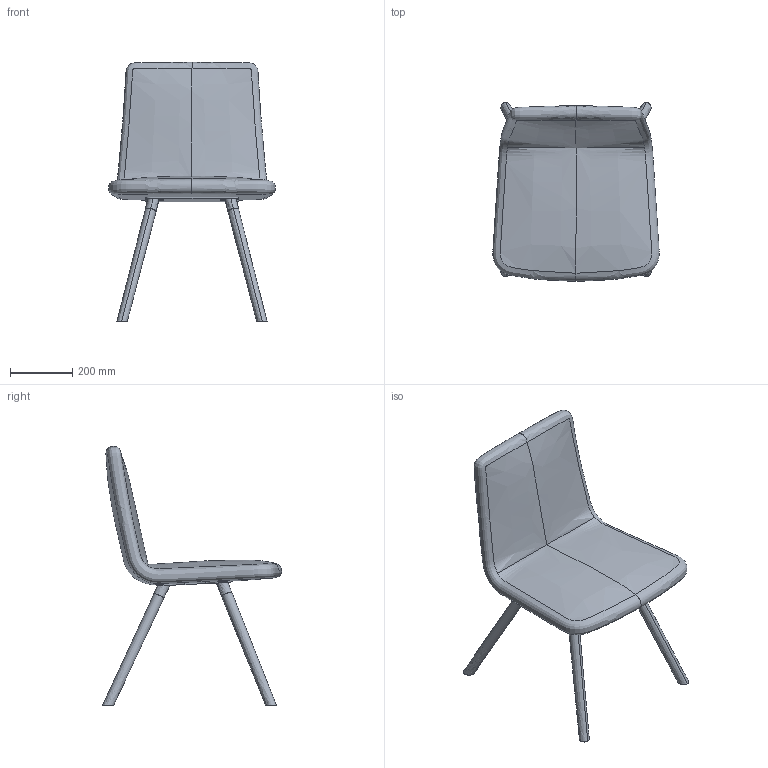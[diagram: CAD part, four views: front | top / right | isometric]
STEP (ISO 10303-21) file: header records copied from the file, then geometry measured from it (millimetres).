
FILE_DESCRIPTION(/* description */ (''),/* implementation_level */ '2;1');
FILE_NAME(/* name */ 'HAF93C~1',/* time_stamp */ '2016-09-30T16:48:27+02:00',/* author */ (''),/* organization */ (''),/* preprocessor_version */ 'ST-DEVELOPER v15',/* originating_system */ '',/* authorisation */ '');
FILE_SCHEMA (('CONFIG_CONTROL_DESIGN'));
Length unit declared in the file: millimetre
Products named in the file (1): Document
Bounding box: 535.12 x 576.28 x 833.82 mm (x, y, z)
Volume: 24290506.5 mm3; surface area: 1212032.8 mm2
Topology: 2 solids, 10 shells, 55 faces, 143 edges, 99 vertices
Faces by surface type: bspline 49, plane 6
Entity records: 5779 total; most frequent: CARTESIAN_POINT 4946, ORIENTED_EDGE 254, EDGE_CURVE 140, VERTEX_POINT 93, ADVANCED_FACE 55, FACE_OUTER_BOUND 55, EDGE_LOOP 55, B_SPLINE_CURVE_WITH_KNOTS 34
